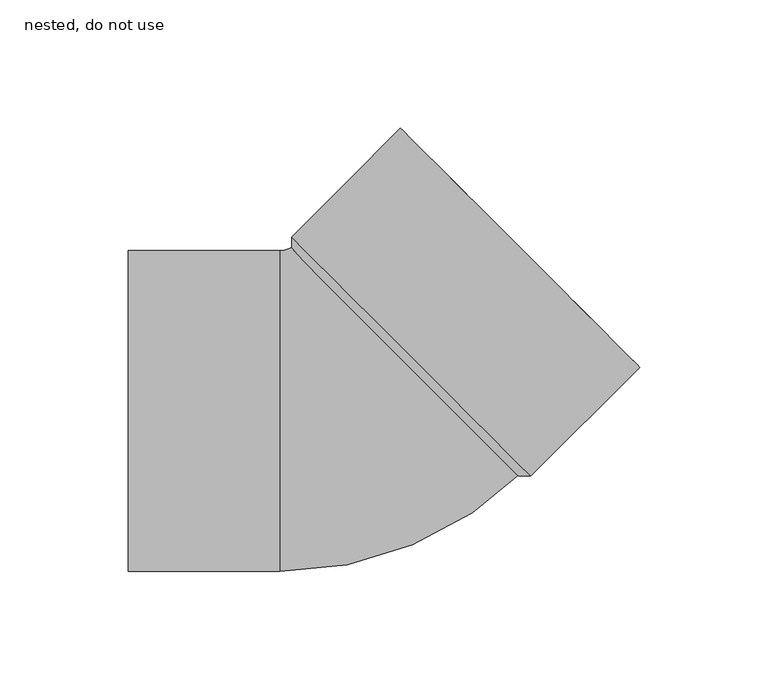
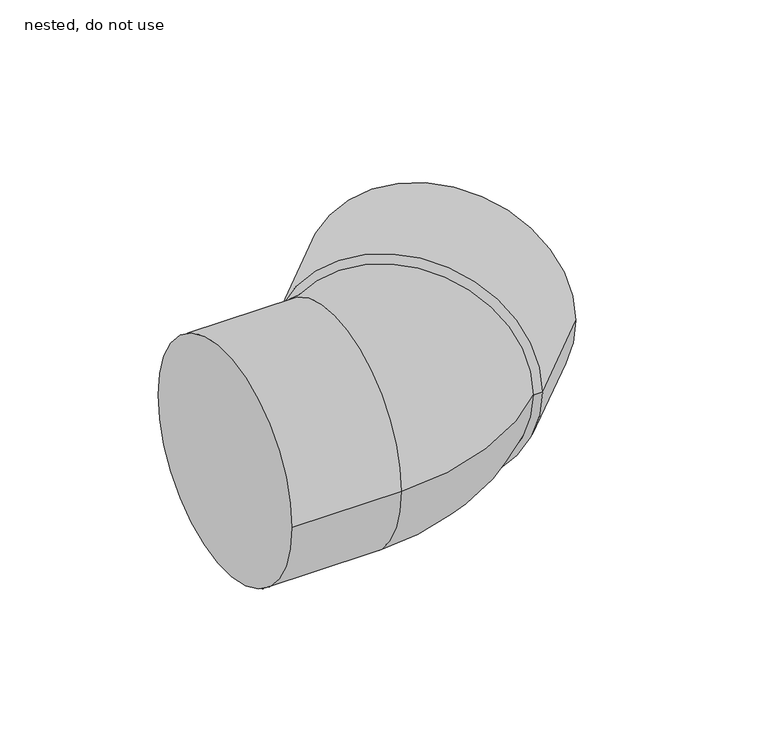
"""IFC4 building model written with IfcOpenShell, lengths in millimetres: pipe fitting geometry, NLRS_52_PIF_UN_Vacurain Flex bocht 1LV_SH_Dyka : nested, do not use."""

from ifc_helpers import new_model, si_unit, point, frame, origin, place, context, project, spatial, polyline, circle_curve, ellipse_curve, trimmed, source, transform, mapped, element, save
from ifc_brep_helpers import plane_surface, cylinder_surface, revolved_surface, advanced_brep


def nested_do_not_use_aba882e9(model_context):
    return source(origin(), model_context, "Body", "AdvancedBrep", [
        advanced_brep(
        [(110.2379472, 17.0412734, 0.0), (17.0412734, 110.2379472, 0.0), (19.4454365, 107.8337841, 0.0), (107.8337841, 19.4454365, 0.0), (67.8115403, -25.3851334, 0.0), (-25.3851334, 67.8115403, 0.0), (63.0032142, -25.3851334, 0.0), (-25.3851334, 63.0032142, 0.0)],
        [
            (0, 1, circle_curve(frame((63.6396103, 63.6396103, 0.0), z_axis=(0.7071067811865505, 0.7071067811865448, 0.0), x_axis=(-0.7071067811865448, 0.7071067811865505, 0.0)), 65.9)),
            (1, 2),
            (2, 3, circle_curve(frame((63.6396103, 63.6396103, 0.0), z_axis=(-0.7071067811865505, -0.7071067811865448, 0.0), x_axis=(-0.7071067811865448, 0.7071067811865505, 0.0)), 62.5)),
            (3, 0),
            (1, 0, circle_curve(frame((63.6396103, 63.6396103, 0.0), z_axis=(0.7071067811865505, 0.7071067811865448, 0.0), x_axis=(-0.7071067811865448, 0.7071067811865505, 0.0)), 65.9)),
            (3, 2, circle_curve(frame((63.6396103, 63.6396103, 0.0), z_axis=(-0.7071067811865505, -0.7071067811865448, 0.0), x_axis=(-0.7071067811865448, 0.7071067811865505, 0.0)), 62.5)),
            (4, 5, circle_curve(frame((21.2132034, 21.2132034, 0.0), z_axis=(0.7071067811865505, 0.7071067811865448, 0.0), x_axis=(-0.7071067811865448, 0.7071067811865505, 0.0)), 65.9)),
            (5, 1),
            (0, 4),
            (5, 4, circle_curve(frame((21.2132034, 21.2132034, 0.0), z_axis=(0.7071067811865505, 0.7071067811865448, 0.0), x_axis=(-0.7071067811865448, 0.7071067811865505, 0.0)), 65.9)),
            (6, 7, circle_curve(frame((18.8090404, 18.8090404, 0.0), z_axis=(0.7071067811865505, 0.7071067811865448, 0.0), x_axis=(-0.7071067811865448, 0.7071067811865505, 0.0)), 62.5)),
            (7, 5),
            (4, 6),
            (7, 6, circle_curve(frame((18.8090404, 18.8090404, 0.0), z_axis=(0.7071067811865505, 0.7071067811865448, 0.0), x_axis=(-0.7071067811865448, 0.7071067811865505, 0.0)), 62.5)),
            (2, 7),
            (6, 3),
        ],
        [
            plane_surface(frame((63.6396103, 63.6396103, 0.0), z_axis=(0.7071067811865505, 0.7071067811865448, 0.0), x_axis=(-0.7071067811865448, 0.7071067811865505, 0.0))),
            cylinder_surface(frame((21.2132034, 21.2132034, 0.0), z_axis=(-0.7071067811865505, -0.7071067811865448, 0.0), x_axis=(-0.7071067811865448, 0.7071067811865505, 0.0)), 65.9),
            revolved_surface(polyline([(-25.3851334, 67.8115403, 0.0), (-25.3851334, 63.0032142, 0.0)]), (21.2132034, 21.2132034, 0.0), (-0.7071067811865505, -0.7071067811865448, 0.0)),
            revolved_surface(polyline([(-25.385133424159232, 63.003214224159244, 0.0), (19.445436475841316, 107.83378412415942, 0.0)]), (21.2132034, 21.2132034, 0.0), (-0.7071067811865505, -0.7071067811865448, 0.0)),
        ],
        [
            (0, [[1, 2, 3, 4]]),
            (0, [[5, -4, 6, -2]]),
            (1, [[7, 8, -1, 9]]),
            (1, [[10, -9, -5, -8]]),
            (2, [[11, 12, -7, 13]]),
            (2, [[14, -13, -10, -12]]),
            (3, [[-3, 15, -11, 16]]),
            (3, [[-6, -16, -14, -15]]),
        ],
    ),
        advanced_brep(
        [(-89.0, -62.5, 0.0), (-89.0, 62.5, 0.0), (-30.0, -62.5, 0.0), (-30.0, 62.5, 0.0), (65.4073773, -22.9809704, 0.0), (21.2137056, 21.2127012, 62.5), (-22.9809704, 65.4073773, 0.0), (21.2137056, 21.2127012, -62.5)],
        [
            (0, 1, circle_curve(frame((-89.0, 0.0, 0.0), z_axis=(-1.0, 0.0, 0.0), x_axis=(0.0, 1.0, 0.0)), 62.5)),
            (1, 0, circle_curve(frame((-89.0, 0.0, 0.0), z_axis=(-1.0, 0.0, 0.0), x_axis=(0.0, 1.0, 0.0)), 62.5)),
            (0, 2),
            (2, 3, circle_curve(frame((-30.0, 0.0, 0.0), z_axis=(-1.0, 0.0, 0.0), x_axis=(0.0, 1.0, 0.0)), 62.5)),
            (3, 1),
            (3, 2, circle_curve(frame((-30.0, 0.0, 0.0), z_axis=(-1.0, 0.0, 0.0), x_axis=(0.0, 1.0, 0.0)), 62.5)),
            (2, 4, circle_curve(frame((-30.0, 72.4264069, 0.0), z_axis=(0.0, 0.0, 1.0), x_axis=(0.0, -1.0, 0.0)), 134.9264069)),
            (4, 5, circle_curve(frame((21.2132034, 21.2132034, 0.0), z_axis=(-0.7071067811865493, -0.7071067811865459, 0.0), x_axis=(-0.707106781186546, 0.7071067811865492, 0.0)), 62.5)),
            (5, 6, circle_curve(frame((21.2132034, 21.2132034, 0.0), z_axis=(-0.7071067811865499, -0.7071067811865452, 0.0), x_axis=(-0.7071067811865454, 0.7071067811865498, 0.0)), 62.5)),
            (6, 3, circle_curve(frame((-30.0, 72.4264069, 0.0), z_axis=(0.0, 0.0, -1.0), x_axis=(0.0, -1.0, 0.0)), 9.9264069)),
            (6, 7, circle_curve(frame((21.2132034, 21.2132034, 0.0), z_axis=(-0.7071067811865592, -0.7071067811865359, 0.0), x_axis=(-0.707106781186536, 0.7071067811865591, 0.0)), 62.5)),
            (7, 4, circle_curve(frame((21.2132034, 21.2132034, 0.0), z_axis=(-0.7071067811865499, -0.7071067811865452, 0.0), x_axis=(-0.7071067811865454, 0.7071067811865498, 0.0)), 62.5)),
        ],
        [
            plane_surface(frame((-89.0, 0.0, 0.0), z_axis=(-1.0, 0.0, 0.0), x_axis=(0.0, 0.0, 1.0))),
            cylinder_surface(frame((-89.0, 0.0, 0.0), z_axis=(-1.0, 0.0, 0.0), x_axis=(0.0, 1.0, 0.0)), 62.5),
            revolved_surface(trimmed(ellipse_curve(frame((-30.0, 0.0, 0.0), z_axis=(-1.0000000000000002, 0.0, 0.0), x_axis=(0.0, 1.0, 0.0)), 62.5, 62.5), [point((-30.0, -62.5, 0.0))], [point((-30.0, 62.5, 0.0))], True, "CARTESIAN"), (-30.0, 72.4264069, 0.0), (0.0, 0.0, 1.0000000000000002)),
            revolved_surface(trimmed(ellipse_curve(frame((-30.0, 0.0, 0.0), z_axis=(-1.0000000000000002, 0.0, 0.0), x_axis=(0.0, 1.0, 0.0)), 62.5, 62.5), [point((-30.0, 62.5, 0.0))], [point((-30.0, -62.5, 0.0))], True, "CARTESIAN"), (-30.0, 72.4264069, 0.0), (0.0, 0.0, 1.0000000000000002)),
            plane_surface(frame((21.2132034, 21.2132034, 0.0), z_axis=(0.7071067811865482, 0.7071067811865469, 0.0), x_axis=(0.0, 0.0, 1.0))),
        ],
        [
            (0, [[1, 2]]),
            (1, [[-1, 3, 4, 5]]),
            (1, [[-2, -5, 6, -3]]),
            (2, [[-4, 7, 8, 9, 10]]),
            (3, [[-6, -10, 11, 12, -7]]),
            (4, [[-8, -12, -11, -9]]),
        ],
    ),
    ])


if __name__ == "__main__":
    model = new_model("IFC4")
    model_context = context("Model", 3, world=origin())
    ifc_project = project(units=[si_unit("LENGTHUNIT", "METRE", prefix="MILLI")], contexts=[model_context])
    site = spatial("IfcSite", under=ifc_project)
    building = spatial("IfcBuilding", under=site)
    placement = place(None, origin())
    nested_do_not_use_shape = nested_do_not_use_aba882e9(model_context)
    element("IfcPipeFitting", 1, ObjectType="NLRS_52_PIF_UN_Vacurain Flex bocht 1LV_SH_Dyka : nested, do not use", at=placement, inside=building, context=model_context, shape_type="MappedRepresentation", body=[
        mapped(nested_do_not_use_shape, transform((0.0, 0.0, 0.0), x_axis=(1.0, 0.0, 0.0), y_axis=(0.0, 1.0, 0.0), z_axis=(0.0, 0.0, 1.0))),
    ])
    save(model, "model.ifc")
